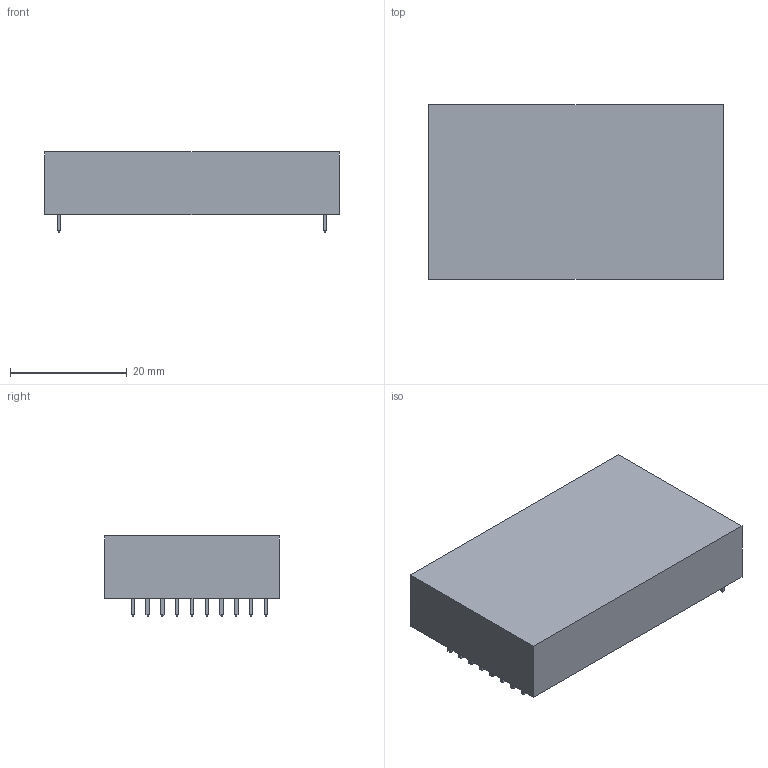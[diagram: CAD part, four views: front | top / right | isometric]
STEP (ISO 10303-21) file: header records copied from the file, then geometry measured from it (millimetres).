
FILE_DESCRIPTION(('FreeCAD Model'),'2;1');
FILE_NAME('C:/Users/PeterH/Desktop/Ag103.step','2017-03-24T14:23:15',( 'Author'),(''),'Open CASCADE STEP processor 6.8','FreeCAD','Unknown' );
FILE_SCHEMA(('AUTOMOTIVE_DESIGN_CC2 { 1 2 10303 214 -1 1 5 4 }'));
Length unit declared in the file: millimetre
Products named in the file (2): ASSEMBLY; Chamfer
Assembly tree (1 placements, depth 2):
  ASSEMBLY
    Chamfer
Bounding box: 50.6 x 30 x 13.74 mm (x, y, z)
Volume: 16322.1 mm3; surface area: 4890.6 mm2
Topology: 1 solids, 1 shells, 168 faces, 372 edges, 224 vertices
Faces by surface type: plane 168
Entity records: 9315 total; most frequent: CARTESIAN_POINT 1510, DIRECTION 1456, LINE 1116, VECTOR 1116, ORIENTED_EDGE 744, PCURVE 744, DEFINITIONAL_REPRESENTATION 744, EDGE_CURVE 372
